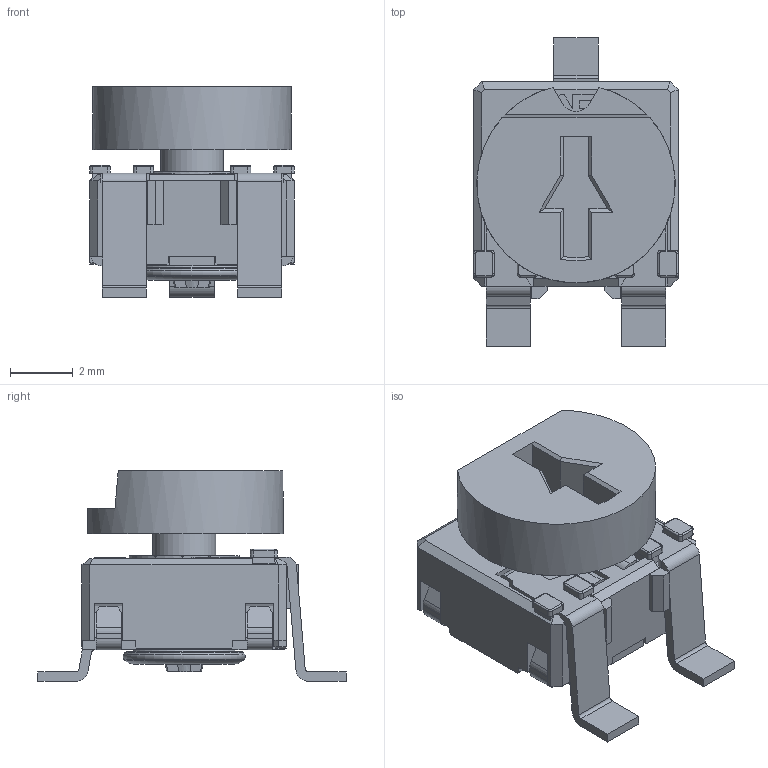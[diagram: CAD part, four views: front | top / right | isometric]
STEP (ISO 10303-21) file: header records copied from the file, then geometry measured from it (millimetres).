
FILE_DESCRIPTION(/* description */ (''),/* implementation_level */ '2;1');
FILE_NAME(/* name */ '\\SERVERACP\intercambio\Ignacio Santa Cecilia\Nueva WEB 2025\CA6\CA6XVSMD WT-6037.stp',/* time_stamp */ '2025-06-05T12:45:19+02:00',/* author */ ('CEM'),/* organization */ (''),/* preprocessor_version */ 'ST-DEVELOPER v17',/* originating_system */ 'Autodesk Inventor 2018',/* authorisation */ '');
FILE_SCHEMA (('AUTOMOTIVE_DESIGN { 1 0 10303 214 3 1 1 }'));
Length unit declared in the file: millimetre
Products named in the file (3): CA6XVSMD WT-6037; CARCASA CA6; BOTON  6030-PR
Assembly tree (2 placements, depth 2):
  CA6XVSMD WT-6037
    CARCASA CA6
    BOTON  6030-PR
Bounding box: 6.5 x 9.8 x 6.7 mm (x, y, z)
Volume: 151.2 mm3; surface area: 533.1 mm2
Topology: 2 solids, 2 shells, 589 faces, 1623 edges, 1041 vertices
Faces by surface type: plane 439, cylinder 102, cone 26, bspline 16, torus 6
Full cylindrical faces by diameter (mm): 1.2 x4, 2 x1, 2.5 x1, 2.7 x1, 2.9 x1, 3.1 x1, 3.5 x1
Entity records: 18857 total; most frequent: CARTESIAN_POINT 3464, ORIENTED_EDGE 3246, DIRECTION 3069, EDGE_CURVE 1623, LINE 1257, VECTOR 1257, VERTEX_POINT 1041, AXIS2_PLACEMENT_3D 906
